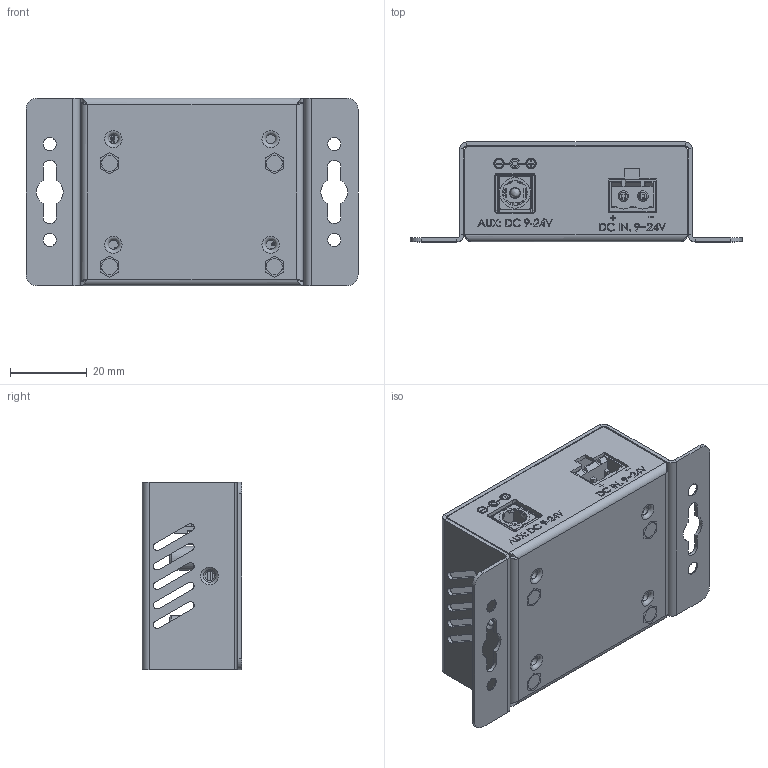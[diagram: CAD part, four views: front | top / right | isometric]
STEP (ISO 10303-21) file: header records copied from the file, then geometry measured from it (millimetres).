
FILE_DESCRIPTION(/* description */ ('STEP AP214','CAx-IF Rec.Pracs.---Representation and Presentation of Product Manufacturing Information (PMI)---4.0---2014-10-13'),/* implementation_level */ '2;1');
FILE_NAME(/* name */ 'CG-PD99PPS-Model-JWV1.step',/* time_stamp */ '2025-03-13T12:52:00-04:00',/* author */ (''),/* organization */ (''),/* preprocessor_version */ 'ST-DEVELOPER v20',/* originating_system */ 'Autodesk Translation Framework v13.20.0.188',/* authorisation */ '');
FILE_SCHEMA (('AP242_MANAGED_MODEL_BASED_3D_ENGINEERING_MIM_LF { 1 0 10303 442 1 1 4 }'));
Products named in the file (207): WTF ENCLOSURE 26mm (PCB WTF-100MAX_v3.2); Bottom 26  (PCB WTF-100MAX_v3.2); Bottom 26  (PCB WTF-100MAX_v3.2)_1; blind standoff_pmm_PEM BSO-M3-6 ZI--N; WTF-100MAX_v3.2; BoardWTF-100MAX_v3.2; RT1WTF-100MAX_v3.2; Q9WTF-100MAX_v3.2; LED2WTF-100MAX_v3.2; 940594576; Extruded; 940594712; Extruded_2; D8WTF-100MAX_v3.2; User_Library-DO-214AC(SMA); J2WTF-100MAX_v3.2; M50-3530542; M50-353-Pin; W2WTF-100MAX_v3.2; W1WTF-100MAX_v3.2; 62000211121; 62000211121_1; 6200xx11121_PIN; R39WTF-100MAX_v3.2; R37WTF-100MAX_v3.2; R36WTF-100MAX_v3.2; R35WTF-100MAX_v3.2; R28WTF-100MAX_v3.2; R27WTF-100MAX_v3.2; R26WTF-100MAX_v3.2; R23WTF-100MAX_v3.2; R16WTF-100MAX_v3.2; R14WTF-100MAX_v3.2; Q7WTF-100MAX_v3.2; sot-323; D6WTF-100MAX_v3.2; D5WTF-100MAX_v3.2; sot-23-3-microchip; D4WTF-100MAX_v3.2; C68WTF-100MAX_v3.2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
Assembly tree (331 placements, depth 5):
  WTF ENCLOSURE 26mm (PCB WTF-100MAX_v3.2)
    Bottom 26  (PCB WTF-100MAX_v3.2)
      Bottom 26  (PCB WTF-100MAX_v3.2)_1
      blind standoff_pmm_PEM BSO-M3-6 ZI--N  x4
    WTF-100MAX_v3.2
      BoardWTF-100MAX_v3.2
      RT1WTF-100MAX_v3.2
        0402_resistor
      Q9WTF-100MAX_v3.2
        User_Library-DFN_3_3x3_3
      LED2WTF-100MAX_v3.2
        940594576
          Extruded
        940594712
          Extruded_2
      D8WTF-100MAX_v3.2
        User_Library-DO-214AC(SMA)
      J2WTF-100MAX_v3.2
        M50-3530542
          M50-353-Pin  x5
      W2WTF-100MAX_v3.2
        62000211121
          62000211121_1
          6200xx11121_PIN  x2
      W1WTF-100MAX_v3.2
        62000211121
          62000211121_1
          6200xx11121_PIN  x2
      R39WTF-100MAX_v3.2
        0402_resistor
      R37WTF-100MAX_v3.2
        0402_resistor
      R36WTF-100MAX_v3.2
        0402_resistor
      R35WTF-100MAX_v3.2
        0402_resistor
      R28WTF-100MAX_v3.2
        0402_resistor
      R27WTF-100MAX_v3.2
        0402_resistor
      R26WTF-100MAX_v3.2
        0402_resistor
      R23WTF-100MAX_v3.2
        0402_resistor
      R16WTF-100MAX_v3.2
        0402_resistor
      R14WTF-100MAX_v3.2
        0402_resistor
      Q7WTF-100MAX_v3.2
        sot-323
      D6WTF-100MAX_v3.2
        SOD323F-1
      D5WTF-100MAX_v3.2
        sot-23-3-microchip
      D4WTF-100MAX_v3.2
        SOD323F-1
      C68WTF-100MAX_v3.2
        0402_cap
      C67WTF-100MAX_v3.2
        0402_cap
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Bounding box: 86.6 x 26 x 49 mm (x, y, z)
Volume: 20032.4 mm3; surface area: 42532.6 mm2
Topology: 280 solids, 280 shells, 9230 faces, 23076 edges, 13967 vertices
Faces by surface type: plane 5709, cylinder 2212, sphere 801, bspline 392, torus 59, cone 57
Full cylindrical faces by diameter (mm): 0.3 x2, 0.366 x1, 0.5 x8, 0.6 x5, 0.65 x2, 0.7 x4, 0.8 x12, 1 x4, 1.1 x9, 1.2 x2, 1.35 x1, 1.4 x2, 1.6 x3, 1.7 x1, 1.9 x1, 2 x1, 2.4 x1, 2.5 x10, 2.8 x2, 2.85 x2, 3 x4, 3.2 x2, 3.4 x4, 3.5 x4, 3.981 x4, 4.1 x6, 4.19 x8, 4.22 x4, 4.8 x12, 5.2 x2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
Entity records: 139751 total; most frequent: CARTESIAN_POINT 35773, ORIENTED_EDGE 20588, DIRECTION 20032, EDGE_CURVE 10294, LINE 7602, VECTOR 7602, VERTEX_POINT 6765, AXIS2_PLACEMENT_3D 6215
